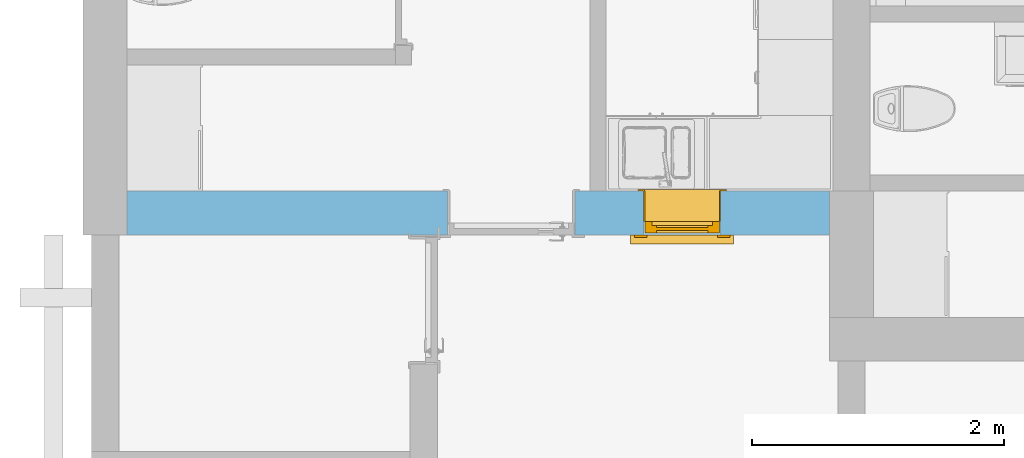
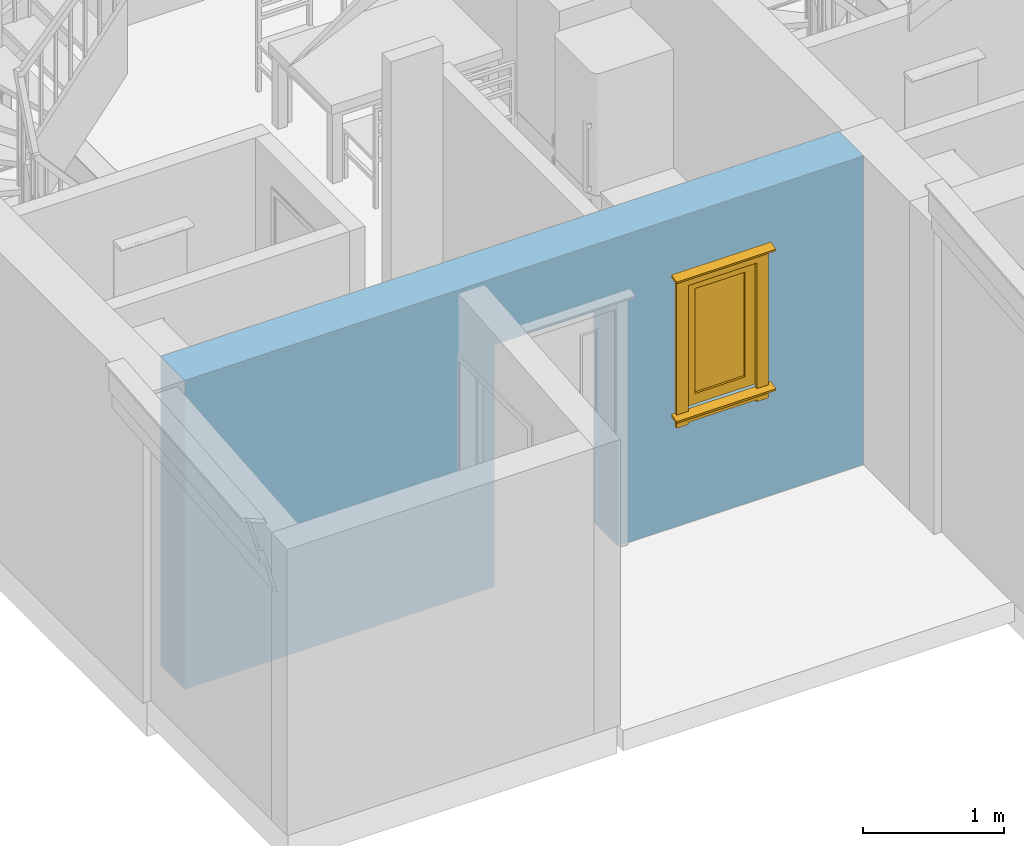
# One storey, part 5 of 65: 1 window, 2 openings, plus 1 element that does not belong to this part.
"""IFC2X3 building model written with IfcOpenShell, lengths in millimetres."""

from ifc_helpers import new_model, entity, si_unit, converted_unit, direction, frame, frame_2d, origin, place, context, subcontext, project, spatial, rectangle, extrude, faceted_brep, source, transform, mapped, material, material_list, layer, layer_set, layer_usage, type_object, type_shapes, element, fill, save


model = new_model("IFC2X3")

# Units and contexts
model_context = context("Model", 3, precision=0.01, world=origin(), true_north=direction((0.0, 1.0)))
body_context = subcontext(model_context, "Body", "Model", "MODEL_VIEW")
ifc_project = project(units=[si_unit("LENGTHUNIT", "METRE", prefix="MILLI"), si_unit("AREAUNIT", "SQUARE_METRE"), si_unit("VOLUMEUNIT", "CUBIC_METRE"), converted_unit("PLANEANGLEUNIT", "DEGREE", entity("IfcPlaneAngleMeasure", 0.017453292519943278), si_unit("PLANEANGLEUNIT", "RADIAN"), dimensions=[0, 0, 0, 0, 0, 0, 0])], contexts=[model_context])

# Site, building, storey
site_placement = place(None, origin())
site = spatial("IfcSite", under=ifc_project, at=site_placement, Name="Default", CompositionType="ELEMENT")
building_placement = place(site_placement, origin())
building = spatial("IfcBuilding", under=site, at=building_placement, CompositionType="ELEMENT")
storey_placement = place(building_placement, origin())
storey = spatial("IfcBuildingStorey", under=building, at=storey_placement, Name="Et. 1", CompositionType="ELEMENT", Elevation=0.0)

# Wall, openings, window
ifc_material_1 = material(Name="Vegg - Stående Kledning_smal - HVIT")
ifc_layer_1 = layer(ifc_material_1, 19.0)
ifc_material_2 = material(Name="Vegg - Utlekting")
ifc_layer_2 = layer(ifc_material_2, 36.0)
ifc_layer_3 = layer(ifc_material_2, 23.0)
ifc_material_3 = material(Name="Vegg - Gips - GU")
ifc_layer_4 = layer(ifc_material_3, 9.0)
ifc_material_4 = material(Name="Vegg - Stender - Isolert")
ifc_layer_5 = layer(ifc_material_4, 198.0)
ifc_material_5 = material(Name="Vegg - Påforing - Isolert")
ifc_layer_6 = layer(ifc_material_5, 48.0)
ifc_material_6 = material(Name="Vegg - Gips - Hvit")
ifc_layer_7 = layer(ifc_material_6, 13.000000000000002)
ifc_layer_set = layer_set([ifc_layer_1, ifc_layer_2, ifc_layer_3, ifc_layer_4, ifc_layer_5, ifc_layer_6, ifc_layer_7], Name="Basic Wall:23-Kv(sm)TIG-19_36_23_9_198_48_13")
ifc_layer_usage = layer_usage(ifc_layer_set, "AXIS2", "NEGATIVE", 173.0)
wall_type = type_object("IfcWallType", Name="Basic Wall:23-Kv(sm)TIG-19_36_23_9_198_48_13", PredefinedType="STANDARD", material=ifc_layer_set)
wall_placement = place(storey_placement, frame((16005.0095867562, 11581.180957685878, 0.0), z_axis=(0.0, 0.0, 1.0), x_axis=(-1.0, 0.0, 0.0)))
wall = element("IfcWallStandardCase", 1, at=wall_placement, inside=storey, type_object=wall_type, material=ifc_layer_usage, Name="Basic Wall:23-Kv(sm)TIG-19_36_23_9_198_48_13", context=body_context, shape_type="SweptSolid", body=[
    extrude(rectangle(XDim=5568.0, YDim=345.99999999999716, at=frame_2d((2784.000000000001, 8.526512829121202e-13), x_axis=(1.0, 0.0))), origin(), (0.0, 0.0, 1.0), 2681.0),
])
opening_1_placement = place(wall_placement, frame((2017.0, -173.0, 0.0)))
element("IfcOpeningElement", 2, at=opening_1_placement, cuts=wall, Name="YD 1 Glassfelt omramming:10x21M:1", ObjectType="Opening", context=body_context, shape_type="SweptSolid", body=[
    extrude(rectangle(XDim=1010.0000000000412, YDim=2100.000000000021, at=frame_2d((1050.0000000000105, 505.0000000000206), x_axis=(0.0, 1.0))), frame((0.0, 0.0, 0.0), z_axis=(0.0, 1.0, 0.0), x_axis=(0.0, 0.0, 1.0)), (0.0, 0.0, 1.0), 346.0),
])
opening_2_placement = place(wall_placement, frame((863.0, -173.0, 990.0)))
opening_2 = element("IfcOpeningElement", 3, at=opening_2_placement, cuts=wall, Name="Hel Rute Åpningsvindu m omramming:6x11M:1", ObjectType="Opening", context=body_context, shape_type="SweptSolid", body=[
    extrude(rectangle(XDim=609.9999999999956, YDim=1109.9999999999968, at=frame_2d((554.9999999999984, 304.9999999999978), x_axis=(0.0, -1.0))), frame((0.0, 0.0, 0.0), z_axis=(0.0, 1.0, 0.0), x_axis=(0.0, 0.0, 1.0)), (0.0, 0.0, 1.0), 346.0),
])
ifc_material_7 = material(Name="Omramming")
ifc_material_8 = material(Name="Karm")
ifc_material_9 = material(Name="Glass - Klart")
ifc_material_list = material_list([ifc_material_7, ifc_material_8, ifc_material_9])
window_style = type_object("IfcWindowStyle", Name="Hel Rute Åpningsvindu m omramming:6x11M", ConstructionType="NOTDEFINED", OperationType="NOTDEFINED", ParameterTakesPrecedence=False, Sizeable=False, material=ifc_material_list)
shared_shape = source(origin(), body_context, "Body", "Brep", [
    faceted_brep([(-73.0, 368.0, 1189.1537012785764), (25.0, 368.0, 1189.1537012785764), (25.0, 368.0, -5.894882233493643), (-73.0, 368.0, -5.894882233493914), (585.0, 346.0, -120.0), (683.0, 346.0, -120.0), (683.0, 346.0, -22.776075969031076), (713.0, 346.0, -22.77607596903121), (713.0, 346.0, 0.0), (683.0, 346.0, 0.0), (683.0, 346.0, 1189.1537012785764), (585.0, 346.0, 1189.1537012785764), (585.0, 346.0, 0.0), (25.0, 346.0, 0.0), (25.0, 346.0, 1189.1537012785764), (-73.0, 346.0, 1189.1537012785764), (-73.0, 346.0, 0.0), (-103.0, 346.0, 0.0), (-103.0, 346.0, -22.776075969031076), (-73.0, 346.0, -22.776075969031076), (-73.0, 346.0, -120.0), (25.0, 346.0, -120.0), (25.0, 346.0, -22.776075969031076), (585.0, 346.0, -22.776075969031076), (683.0, 368.0, 1189.1537012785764), (585.0, 368.0, 1189.1537012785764), (683.0, 368.0, -5.894882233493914), (585.0, 368.0, -120.0), (683.0, 368.0, -120.0), (585.0, 368.0, -5.894882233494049), (-73.0, 368.0, -120.0), (25.0, 368.0, -120.0), (-103.0, 413.6148078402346, -40.89340912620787), (-103.0, 419.3088268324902, -19.64304094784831), (713.0, 413.6148078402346, -40.89340912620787), (713.0, 419.3088268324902, -19.64304094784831), (683.0, 368.0, -28.67095820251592), (585.0, 368.0, -28.670958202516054), (25.0, 368.0, -28.67095820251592), (-73.0, 368.0, -28.670958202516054)], [[[0, 1, 2, 3]], [[4, 5, 6, 7, 8, 9, 10, 11, 12, 13, 14, 15, 16, 17, 18, 19, 20, 21, 22, 23]], [[24, 25, 11, 10]], [[24, 10, 9, 26]], [[27, 28, 5, 4]], [[11, 25, 29, 12]], [[1, 0, 15, 14]], [[1, 14, 13, 2]], [[30, 31, 21, 20]], [[15, 0, 3, 16]], [[32, 18, 17, 33]], [[34, 35, 8, 7]], [[18, 32, 34, 7, 6, 36, 37, 23, 22, 38, 39, 19]], [[33, 17, 16, 3, 2, 13, 12, 29, 26, 9, 8, 35]], [[32, 33, 35, 34]], [[30, 20, 19, 39]], [[21, 31, 38, 22]], [[27, 4, 23, 37]], [[5, 28, 36, 6]], [[31, 30, 39, 38]], [[25, 24, 26, 29]], [[28, 27, 37, 36]]]),
    faceted_brep([(713.0, 413.52687511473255, 1170.8011105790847), (713.0, 418.4444369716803, 1189.1537012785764), (713.0, 346.0, 1208.5651296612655), (713.0, 346.0, 1188.8948822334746), (-103.0, 413.52687511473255, 1170.8011105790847), (-103.0, 346.0, 1188.8948822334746), (-103.0, 346.0, 1208.5651296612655), (-103.0, 418.4444369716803, 1189.1537012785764)], [[[0, 1, 2, 3]], [[4, 5, 6, 7]], [[1, 0, 4, 7]], [[2, 1, 7, 6]], [[3, 2, 6, 5]], [[0, 3, 5, 4]]]),
    faceted_brep([(25.0, 368.0, 1183.0), (585.0, 368.0, 1183.0), (585.0, 368.0, 1085.0), (25.0, 368.0, 1085.0), (25.0, 346.0, 1183.0), (25.0, 346.0, 1085.0), (585.0, 346.0, 1085.0), (585.0, 346.0, 1183.0)], [[[0, 1, 2, 3]], [[4, 5, 6, 7]], [[1, 0, 4, 7]], [[2, 1, 7, 6]], [[3, 2, 6, 5]], [[0, 3, 5, 4]]]),
    faceted_brep([(585.0, 368.0, -30.0), (25.0, 368.0, -30.0), (25.0, 346.0, -30.0), (585.0, 346.0, -30.0), (585.0, 368.0, -102.0), (585.0, 346.0, -102.0), (25.0, 368.0, -102.0), (25.0, 346.0, -102.0)], [[[0, 1, 2, 3]], [[4, 0, 3, 5]], [[6, 4, 5, 7]], [[1, 6, 7, 2]], [[2, 7, 5, 3]], [[1, 0, 4, 6]]]),
    faceted_brep([(100.0, 271.0, 100.0), (100.0, 331.0, 100.0), (100.0, 331.0, 1010.0), (100.0, 271.0, 1010.0), (50.0, 331.0, 50.0), (50.0, 271.0, 50.0), (50.0, 271.0, 1060.0), (50.0, 331.0, 1060.0), (510.0, 331.0, 1010.0), (510.0, 271.0, 1010.0), (560.0, 271.0, 1060.0), (560.0, 331.0, 1060.0), (510.0, 331.0, 100.0), (510.0, 271.0, 100.0), (560.0, 271.0, 50.0), (560.0, 331.0, 50.0)], [[[0, 1, 2, 3]], [[4, 5, 6, 7]], [[3, 2, 8, 9]], [[7, 6, 10, 11]], [[9, 8, 12, 13]], [[11, 10, 14, 15]], [[13, 12, 1, 0]], [[3, 9, 13, 0], [5, 14, 10, 6]], [[15, 14, 5, 4]], [[7, 11, 15, 4], [1, 12, 8, 2]]], outer=[[True], [True], [True], [True], [True], [True], [True], [False, True], [True], [True, False]]),
    faceted_brep([(510.0, 288.4999999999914, 100.0), (510.0, 288.49999999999, 1010.0), (100.0, 288.49999999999, 1010.0), (100.0, 288.4999999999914, 100.0), (510.0, 313.4999999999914, 100.0), (100.0, 313.4999999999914, 100.0), (100.0, 313.49999999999, 1010.0), (510.0, 313.49999999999, 1010.0)], [[[0, 1, 2, 3]], [[4, 5, 6, 7]], [[1, 0, 4, 7]], [[2, 1, 7, 6]], [[3, 2, 6, 5]], [[0, 3, 5, 4]]]),
    faceted_brep([(600.0, 239.0, 10.0), (600.0, 331.0, 10.0), (600.0, 331.0, 1100.0), (600.0, 239.0, 1100.0), (560.0, 331.0, 1060.0), (560.0, 331.0, 50.0), (560.0, 271.0, 50.0), (560.0, 271.0, 1060.0), (10.0, 331.0, 1100.0), (10.0, 239.0, 1100.0), (50.0, 331.0, 1060.0), (50.0, 271.0, 1060.0), (10.0, 331.0, 10.0), (10.0, 239.0, 10.0), (50.0, 331.0, 50.0), (50.0, 271.0, 50.0), (65.0, 239.0, 65.0), (65.0, 239.0, 1045.0), (545.0, 239.0, 1045.0), (545.0, 239.0, 65.0), (65.0, 271.0, 65.0), (65.0, 271.0, 1045.0), (545.0, 271.0, 1045.0), (545.0, 271.0, 65.0)], [[[0, 1, 2, 3]], [[4, 5, 6, 7]], [[3, 2, 8, 9]], [[10, 4, 7, 11]], [[9, 8, 12, 13]], [[14, 10, 11, 15]], [[2, 1, 12, 8], [5, 4, 10, 14]], [[1, 0, 13, 12]], [[0, 3, 9, 13], [16, 17, 18, 19]], [[5, 14, 15, 6]], [[16, 20, 21, 17]], [[17, 21, 22, 18]], [[18, 22, 23, 19]], [[20, 16, 19, 23]], [[7, 6, 15, 11], [21, 20, 23, 22]]]),
    faceted_brep([(610.0, 239.0, 1110.0), (610.0, 239.0, 0.0), (0.0, 239.0, 0.0), (0.0, 239.0, 1110.0), (10.0, 239.0, 10.0), (600.0, 239.0, 10.0), (600.0, 239.0, 1100.0), (10.0, 239.0, 1100.0), (610.0, 0.0, 1110.0), (0.0, 0.0, 1110.0), (0.0, 0.0, 0.0), (610.0, 0.0, 0.0), (10.0, 0.0, 10.0), (10.0, 0.0, 1100.0), (600.0, 0.0, 1100.0), (600.0, 0.0, 10.0)], [[[0, 1, 2, 3], [4, 5, 6, 7]], [[8, 9, 10, 11], [12, 13, 14, 15]], [[1, 0, 8, 11]], [[2, 1, 11, 10]], [[3, 2, 10, 9]], [[0, 3, 9, 8]], [[5, 4, 12, 15]], [[6, 5, 15, 14]], [[7, 6, 14, 13]], [[4, 7, 13, 12]]]),
    faceted_brep([(5.0, -12.0, 1105.0), (5.0, 0.0, 1105.0), (605.0, 0.0, 1105.0), (605.0, -12.0, 1105.0), (-47.0, 0.0, 1157.0), (-47.0, -12.0, 1157.0), (657.0, -12.0, 1157.0), (657.0, 0.0, 1157.0), (605.0, 0.0, 5.0), (605.0, -12.0, 5.0), (657.0, -12.0, -47.0), (657.0, 0.0, -47.0), (5.0, 0.0, 5.0), (5.0, -12.0, 5.0), (-47.0, -12.0, -47.0), (-47.0, 0.0, -47.0)], [[[0, 1, 2, 3]], [[4, 5, 6, 7]], [[3, 2, 8, 9]], [[7, 6, 10, 11]], [[9, 8, 12, 13]], [[11, 10, 14, 15]], [[7, 11, 15, 4], [1, 12, 8, 2]], [[13, 12, 1, 0]], [[3, 9, 13, 0], [5, 14, 10, 6]], [[15, 14, 5, 4]]], outer=[[True], [True], [True], [True], [True], [True], [True, False], [True], [False, True], [True]]),
])
type_shapes(window_style, [shared_shape])
window_placement = place(opening_2_placement, origin())
window = element("IfcWindow", 4, at=window_placement, inside=storey, type_object=window_style, material=ifc_material_list, Name="Hel Rute Åpningsvindu m omramming:6x11M", OverallHeight=1109.9999999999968, OverallWidth=609.9999999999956, context=body_context, shape_type="MappedRepresentation", body=[
    mapped(shared_shape, transform((0.0, 0.0, 0.0), scale=1.0)),
])
fill(opening_2, window)

save(model, "model.ifc")
